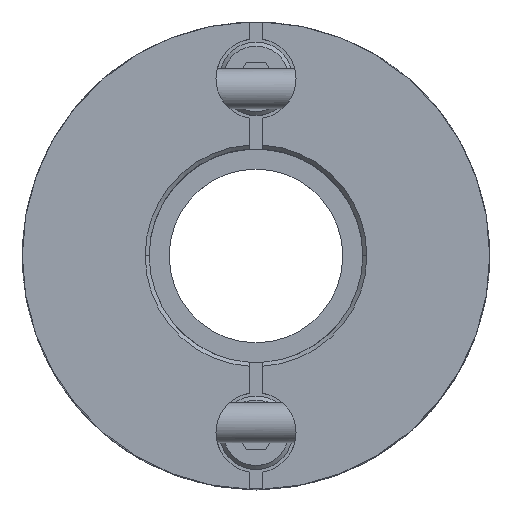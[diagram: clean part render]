
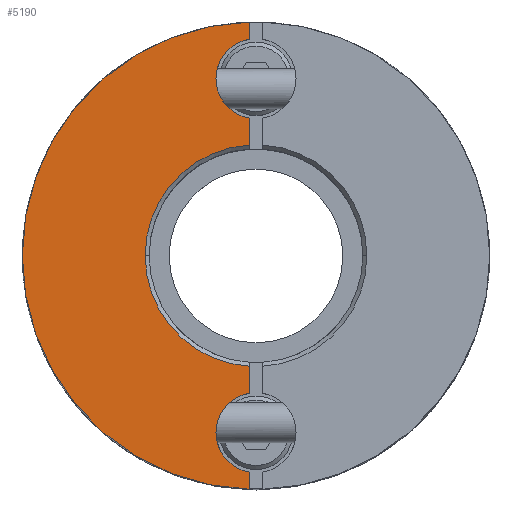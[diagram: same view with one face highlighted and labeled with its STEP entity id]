
A CAD part, top view. The second image highlights one B-rep face of the part: STEP entity #5190.
In plain terms, the highlighted planar face has unit normal (0, 0, 1).
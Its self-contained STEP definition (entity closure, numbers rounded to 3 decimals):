
#2205=CARTESIAN_POINT('',(-8.3,0.,13.5));
#2206=VERTEX_POINT('',#2205);
#2213=CARTESIAN_POINT('',(-0.5,-8.285,13.5));
#2214=VERTEX_POINT('',#2213);
#2215=CARTESIAN_POINT('',(0.,0.0,13.5));
#2216=DIRECTION('',(0.0,0.0,1.0));
#2217=DIRECTION('',(1.0,0.0,0.0));
#2218=AXIS2_PLACEMENT_3D('',#2215,#2216,#2217);
#2219=CIRCLE('',#2218,8.3);
#2220=EDGE_CURVE('',#2206,#2214,#2219,.T.);
#2285=CARTESIAN_POINT('',(-17.5,0.,13.5));
#2286=VERTEX_POINT('',#2285);
#2370=CARTESIAN_POINT('',(-0.5,-17.493,13.5));
#2371=VERTEX_POINT('',#2370);
#2378=CARTESIAN_POINT('',(0.,0.0,13.5));
#2379=DIRECTION('',(0.0,0.0,-1.0));
#2380=DIRECTION('',(-1.0,0.0,0.0));
#2381=AXIS2_PLACEMENT_3D('',#2378,#2379,#2380);
#2382=CIRCLE('',#2381,17.5);
#2383=EDGE_CURVE('',#2371,#2286,#2382,.T.);
#2525=CARTESIAN_POINT('',(-3.,13.25,13.5));
#2526=VERTEX_POINT('',#2525);
#2535=CARTESIAN_POINT('',(-0.5,10.292,13.5));
#2536=VERTEX_POINT('',#2535);
#2537=CARTESIAN_POINT('',(0.,13.25,13.5));
#2538=DIRECTION('',(0.0,0.0,-1.0));
#2539=DIRECTION('',(-1.0,0.0,0.0));
#2540=AXIS2_PLACEMENT_3D('',#2537,#2538,#2539);
#2541=CIRCLE('',#2540,3.0);
#2542=EDGE_CURVE('',#2536,#2526,#2541,.T.);
#2809=CARTESIAN_POINT('',(-3.,-13.25,13.5));
#2810=VERTEX_POINT('',#2809);
#2819=CARTESIAN_POINT('',(-0.5,-16.208,13.5));
#2820=VERTEX_POINT('',#2819);
#2821=CARTESIAN_POINT('',(0.,-13.25,13.5));
#2822=DIRECTION('',(0.0,0.0,-1.0));
#2823=DIRECTION('',(-1.0,0.0,0.0));
#2824=AXIS2_PLACEMENT_3D('',#2821,#2822,#2823);
#2825=CIRCLE('',#2824,3.0);
#2826=EDGE_CURVE('',#2820,#2810,#2825,.T.);
#4908=CARTESIAN_POINT('',(-0.5,-10.292,13.5));
#4909=VERTEX_POINT('',#4908);
#4916=CARTESIAN_POINT('',(0.,-13.25,13.5));
#4917=DIRECTION('',(0.0,0.0,-1.0));
#4918=DIRECTION('',(-1.0,0.0,0.0));
#4919=AXIS2_PLACEMENT_3D('',#4916,#4917,#4918);
#4920=CIRCLE('',#4919,3.0);
#4921=EDGE_CURVE('',#2810,#4909,#4920,.T.);
#5016=CARTESIAN_POINT('',(-0.5,16.208,13.5));
#5017=VERTEX_POINT('',#5016);
#5024=CARTESIAN_POINT('',(0.,13.25,13.5));
#5025=DIRECTION('',(0.0,0.0,-1.0));
#5026=DIRECTION('',(-1.0,0.0,0.0));
#5027=AXIS2_PLACEMENT_3D('',#5024,#5025,#5026);
#5028=CIRCLE('',#5027,3.0);
#5029=EDGE_CURVE('',#2526,#5017,#5028,.T.);
#5114=CARTESIAN_POINT('',(-0.5,-10.292,13.5));
#5115=DIRECTION('',(0.0,1.0,0.0));
#5116=VECTOR('',#5115,2.007);
#5117=LINE('',#5114,#5116);
#5118=EDGE_CURVE('',#4909,#2214,#5117,.T.);
#5129=CARTESIAN_POINT('',(-0.5,-17.493,13.5));
#5130=DIRECTION('',(0.0,1.0,0.0));
#5131=VECTOR('',#5130,1.285);
#5132=LINE('',#5129,#5131);
#5133=EDGE_CURVE('',#2371,#2820,#5132,.T.);
#5145=CARTESIAN_POINT('',(-1.591,0.,13.5));
#5146=DIRECTION('',(0.0,0.0,1.0));
#5147=DIRECTION('',(-1.0,0.0,0.0));
#5148=AXIS2_PLACEMENT_3D('',#5145,#5146,#5147);
#5149=PLANE('',#5148);
#5150=ORIENTED_EDGE('',*,*,#2826,.T.);
#5151=ORIENTED_EDGE('',*,*,#4921,.T.);
#5152=ORIENTED_EDGE('',*,*,#5118,.T.);
#5153=ORIENTED_EDGE('',*,*,#2220,.F.);
#5154=CARTESIAN_POINT('',(-0.5,8.285,13.5));
#5155=VERTEX_POINT('',#5154);
#5156=CARTESIAN_POINT('',(0.,0.0,13.5));
#5157=DIRECTION('',(0.0,0.0,1.0));
#5158=DIRECTION('',(1.0,0.0,0.0));
#5159=AXIS2_PLACEMENT_3D('',#5156,#5157,#5158);
#5160=CIRCLE('',#5159,8.3);
#5161=EDGE_CURVE('',#5155,#2206,#5160,.T.);
#5162=ORIENTED_EDGE('',*,*,#5161,.F.);
#5163=CARTESIAN_POINT('',(-0.5,8.285,13.5));
#5164=DIRECTION('',(0.0,1.0,0.0));
#5165=VECTOR('',#5164,2.007);
#5166=LINE('',#5163,#5165);
#5167=EDGE_CURVE('',#5155,#2536,#5166,.T.);
#5168=ORIENTED_EDGE('',*,*,#5167,.T.);
#5169=ORIENTED_EDGE('',*,*,#2542,.T.);
#5170=ORIENTED_EDGE('',*,*,#5029,.T.);
#5171=CARTESIAN_POINT('',(-0.5,17.493,13.5));
#5172=VERTEX_POINT('',#5171);
#5173=CARTESIAN_POINT('',(-0.5,16.208,13.5));
#5174=DIRECTION('',(0.0,1.0,0.0));
#5175=VECTOR('',#5174,1.285);
#5176=LINE('',#5173,#5175);
#5177=EDGE_CURVE('',#5017,#5172,#5176,.T.);
#5178=ORIENTED_EDGE('',*,*,#5177,.T.);
#5179=CARTESIAN_POINT('',(0.,0.0,13.5));
#5180=DIRECTION('',(0.0,0.0,-1.0));
#5181=DIRECTION('',(-1.0,0.0,0.0));
#5182=AXIS2_PLACEMENT_3D('',#5179,#5180,#5181);
#5183=CIRCLE('',#5182,17.5);
#5184=EDGE_CURVE('',#2286,#5172,#5183,.T.);
#5185=ORIENTED_EDGE('',*,*,#5184,.F.);
#5186=ORIENTED_EDGE('',*,*,#2383,.F.);
#5187=ORIENTED_EDGE('',*,*,#5133,.T.);
#5188=EDGE_LOOP('',(#5150,#5151,#5152,#5153,#5162,#5168,#5169,#5170,#5178,#5185,#5186,#5187));
#5189=FACE_OUTER_BOUND('',#5188,.T.);
#5190=ADVANCED_FACE('',(#5189),#5149,.T.);
